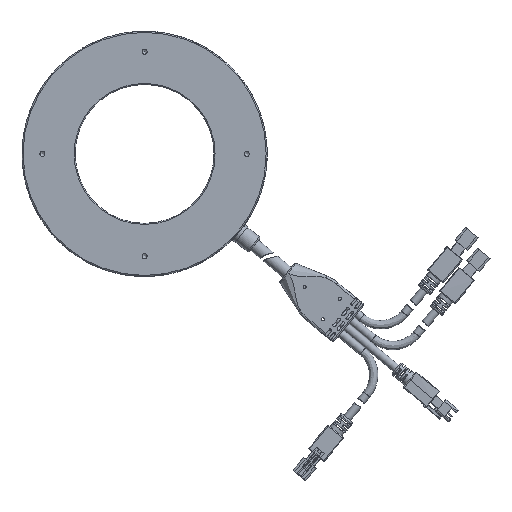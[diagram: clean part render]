
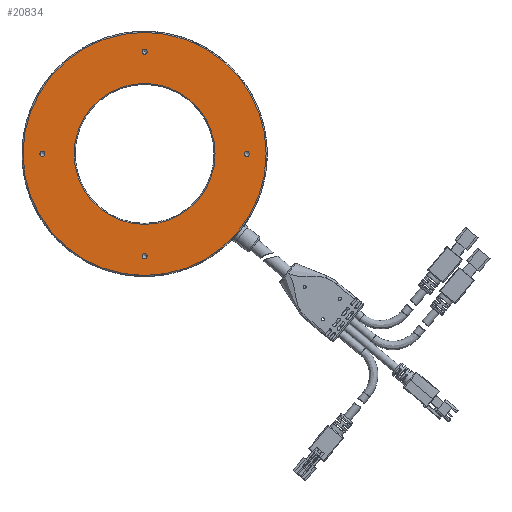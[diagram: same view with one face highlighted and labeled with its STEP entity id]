
A CAD part, front view. The second image highlights one B-rep face of the part: STEP entity #20834.
In plain terms, the highlighted planar face has unit normal (0, -1, 0).
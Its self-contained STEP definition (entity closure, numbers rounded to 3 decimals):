
#89 = DIRECTION ( 'NONE',  ( 0., 0., -1. ) ) ;
#1399 = DIRECTION ( 'NONE',  ( 0., 1., 0. ) ) ;
#2357 = CARTESIAN_POINT ( 'NONE',  ( 0., 0., 0. ) ) ;
#5461 = AXIS2_PLACEMENT_3D ( 'NONE', #9362, #13921, #50672 ) ;
#5513 = EDGE_LOOP ( 'NONE', ( #16114 ) ) ;
#6390 = EDGE_LOOP ( 'NONE', ( #25285 ) ) ;
#7164 = CIRCLE ( 'NONE', #55411, 1.25 ) ;
#7312 = EDGE_CURVE ( 'NONE', #36668, #36668, #40828, .T. ) ;
#7766 = DIRECTION ( 'NONE',  ( 0., 0., 1. ) ) ;
#9362 = CARTESIAN_POINT ( 'NONE',  ( 0., 0., 50. ) ) ;
#11756 = CIRCLE ( 'NONE', #44125, 34.5 ) ;
#12979 = DIRECTION ( 'NONE',  ( 0., -1., 0. ) ) ;
#13921 = DIRECTION ( 'NONE',  ( 0., -1., 0. ) ) ;
#14223 = DIRECTION ( 'NONE',  ( 0., 0., -1. ) ) ;
#14747 = FACE_OUTER_BOUND ( 'NONE', #24587, .T. ) ;
#15078 = CIRCLE ( 'NONE', #47657, 59.5 ) ;
#16114 = ORIENTED_EDGE ( 'NONE', *, *, #7312, .F. ) ;
#16284 = CARTESIAN_POINT ( 'NONE',  ( 0., 0., 48.75 ) ) ;
#17170 = CARTESIAN_POINT ( 'NONE',  ( 0., 0., 0. ) ) ;
#18056 = EDGE_CURVE ( 'NONE', #39513, #39513, #37533, .T. ) ;
#18595 = CARTESIAN_POINT ( 'NONE',  ( 50., 0., 0. ) ) ;
#19933 = ORIENTED_EDGE ( 'NONE', *, *, #18056, .F. ) ;
#20675 = VERTEX_POINT ( 'NONE', #26539 ) ;
#20824 = DIRECTION ( 'NONE',  ( 0., 0., -1. ) ) ;
#20834 = ADVANCED_FACE ( 'NONE', ( #57440, #14747, #28446, #42166, #29918, #48694 ), #33331, .F. ) ;
#22203 = ORIENTED_EDGE ( 'NONE', *, *, #32644, .F. ) ;
#23192 = CARTESIAN_POINT ( 'NONE',  ( 0., 0., -50. ) ) ;
#23480 = AXIS2_PLACEMENT_3D ( 'NONE', #34572, #39220, #20824 ) ;
#24587 = EDGE_LOOP ( 'NONE', ( #32705 ) ) ;
#25285 = ORIENTED_EDGE ( 'NONE', *, *, #34448, .T. ) ;
#26195 = CIRCLE ( 'NONE', #5461, 1.25 ) ;
#26539 = CARTESIAN_POINT ( 'NONE',  ( 0., 0., -51.25 ) ) ;
#26623 = EDGE_LOOP ( 'NONE', ( #39741 ) ) ;
#28446 = FACE_BOUND ( 'NONE', #26623, .T. ) ;
#29918 = FACE_BOUND ( 'NONE', #46233, .T. ) ;
#30101 = VERTEX_POINT ( 'NONE', #48181 ) ;
#32644 = EDGE_CURVE ( 'NONE', #40951, #40951, #26195, .T. ) ;
#32705 = ORIENTED_EDGE ( 'NONE', *, *, #36297, .T. ) ;
#33331 = PLANE ( 'NONE',  #58506 ) ;
#34448 = EDGE_CURVE ( 'NONE', #57687, #57687, #11756, .T. ) ;
#34572 = CARTESIAN_POINT ( 'NONE',  ( -50., 0., 0. ) ) ;
#36297 = EDGE_CURVE ( 'NONE', #30101, #30101, #15078, .T. ) ;
#36668 = VERTEX_POINT ( 'NONE', #37882 ) ;
#36940 = DIRECTION ( 'NONE',  ( 0., -1., 0. ) ) ;
#37017 = DIRECTION ( 'NONE',  ( 0., -1., 0. ) ) ;
#37533 = CIRCLE ( 'NONE', #23480, 1.25 ) ;
#37882 = CARTESIAN_POINT ( 'NONE',  ( 50., 0., -1.25 ) ) ;
#39220 = DIRECTION ( 'NONE',  ( 0., -1., 0. ) ) ;
#39288 = CARTESIAN_POINT ( 'NONE',  ( 0., 0., 34.5 ) ) ;
#39513 = VERTEX_POINT ( 'NONE', #56339 ) ;
#39741 = ORIENTED_EDGE ( 'NONE', *, *, #45219, .F. ) ;
#40828 = CIRCLE ( 'NONE', #56478, 1.25 ) ;
#40951 = VERTEX_POINT ( 'NONE', #16284 ) ;
#42166 = FACE_BOUND ( 'NONE', #47701, .T. ) ;
#43816 = DIRECTION ( 'NONE',  ( 0., 1., 0. ) ) ;
#44125 = AXIS2_PLACEMENT_3D ( 'NONE', #2357, #43816, #7766 ) ;
#45219 = EDGE_CURVE ( 'NONE', #20675, #20675, #7164, .T. ) ;
#46233 = EDGE_LOOP ( 'NONE', ( #22203 ) ) ;
#47657 = AXIS2_PLACEMENT_3D ( 'NONE', #17170, #12979, #49480 ) ;
#47701 = EDGE_LOOP ( 'NONE', ( #19933 ) ) ;
#48181 = CARTESIAN_POINT ( 'NONE',  ( 0., 0., 59.5 ) ) ;
#48694 = FACE_BOUND ( 'NONE', #5513, .T. ) ;
#49480 = DIRECTION ( 'NONE',  ( 0., 0., 1. ) ) ;
#50672 = DIRECTION ( 'NONE',  ( 0., 0., -1. ) ) ;
#51205 = CARTESIAN_POINT ( 'NONE',  ( 34., 0., 0. ) ) ;
#52032 = DIRECTION ( 'NONE',  ( 0., 0., 1. ) ) ;
#55411 = AXIS2_PLACEMENT_3D ( 'NONE', #23192, #36940, #89 ) ;
#56339 = CARTESIAN_POINT ( 'NONE',  ( -50., 0., -1.25 ) ) ;
#56478 = AXIS2_PLACEMENT_3D ( 'NONE', #18595, #37017, #14223 ) ;
#57440 = FACE_BOUND ( 'NONE', #6390, .T. ) ;
#57687 = VERTEX_POINT ( 'NONE', #39288 ) ;
#58506 = AXIS2_PLACEMENT_3D ( 'NONE', #51205, #1399, #52032 ) ;
